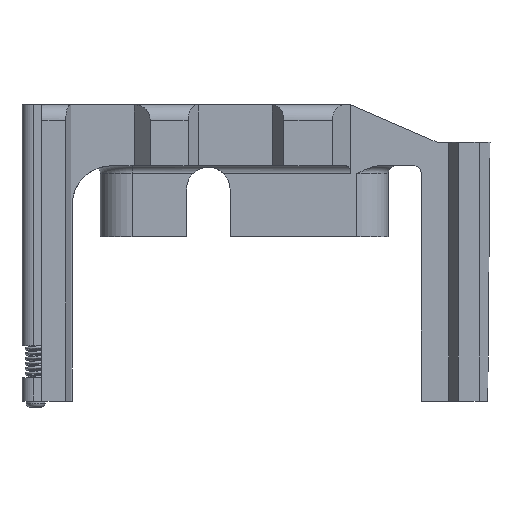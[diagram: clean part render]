
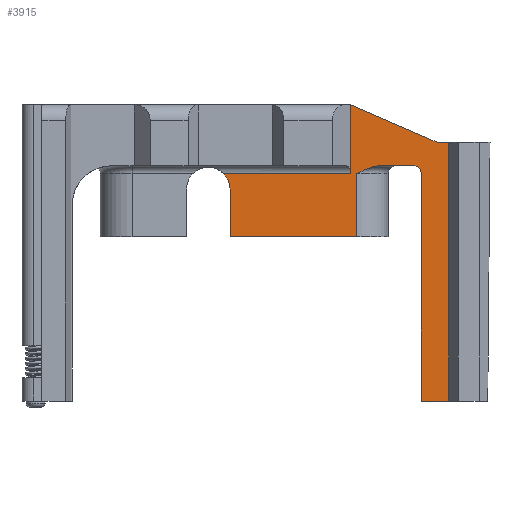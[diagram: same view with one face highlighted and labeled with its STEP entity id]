
A CAD part, left-side view. The second image highlights one B-rep face of the part: STEP entity #3915.
In plain terms, the highlighted planar face has unit normal (-1, 0, 0).
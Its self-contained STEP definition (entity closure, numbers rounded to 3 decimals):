
#80=PLANE('',#4219);
#202=B_SPLINE_CURVE_WITH_KNOTS('',3,(#5798,#5799,#5800,#5801),
 .UNSPECIFIED.,.F.,.F.,(4,4),(0.675,0.979),
 .UNSPECIFIED.);
#326=FACE_OUTER_BOUND('',#542,.T.);
#542=EDGE_LOOP('',(#2727,#2728,#2729,#2730,#2731,#2732,#2733,#2734,#2735,
#2736,#2737,#2738,#2739,#2740,#2741));
#768=LINE('',#5748,#1160);
#782=LINE('',#5792,#1174);
#783=LINE('',#5794,#1175);
#784=LINE('',#5796,#1176);
#785=LINE('',#5803,#1177);
#786=LINE('',#5807,#1178);
#787=LINE('',#5809,#1179);
#788=LINE('',#5811,#1180);
#789=LINE('',#5813,#1181);
#790=LINE('',#5815,#1182);
#791=LINE('',#5818,#1183);
#1160=VECTOR('',#4617,10.);
#1174=VECTOR('',#4649,10.);
#1175=VECTOR('',#4650,10.);
#1176=VECTOR('',#4651,10.);
#1177=VECTOR('',#4652,9.95);
#1178=VECTOR('',#4655,10.);
#1179=VECTOR('',#4656,9.95);
#1180=VECTOR('',#4657,9.95);
#1181=VECTOR('',#4658,9.95);
#1182=VECTOR('',#4659,9.95);
#1183=VECTOR('',#4662,9.95);
#1559=CIRCLE('',#4220,2.755);
#1560=CIRCLE('',#4221,1.);
#1561=CIRCLE('',#4222,0.995);
#1662=VERTEX_POINT('',#5727);
#1664=VERTEX_POINT('',#5747);
#1680=VERTEX_POINT('',#5789);
#1681=VERTEX_POINT('',#5791);
#1682=VERTEX_POINT('',#5793);
#1683=VERTEX_POINT('',#5795);
#1684=VERTEX_POINT('',#5797);
#1685=VERTEX_POINT('',#5802);
#1686=VERTEX_POINT('',#5804);
#1687=VERTEX_POINT('',#5806);
#1688=VERTEX_POINT('',#5808);
#1689=VERTEX_POINT('',#5810);
#1690=VERTEX_POINT('',#5812);
#1691=VERTEX_POINT('',#5814);
#1692=VERTEX_POINT('',#5816);
#2074=EDGE_CURVE('',#1662,#1664,#768,.T.);
#2094=EDGE_CURVE('',#1662,#1680,#1559,.T.);
#2095=EDGE_CURVE('',#1680,#1681,#782,.T.);
#2096=EDGE_CURVE('',#1682,#1681,#783,.T.);
#2097=EDGE_CURVE('',#1683,#1682,#784,.T.);
#2098=EDGE_CURVE('',#1684,#1683,#202,.T.);
#2099=EDGE_CURVE('',#1685,#1684,#785,.T.);
#2100=EDGE_CURVE('',#1686,#1685,#1560,.T.);
#2101=EDGE_CURVE('',#1686,#1687,#786,.T.);
#2102=EDGE_CURVE('',#1688,#1687,#787,.T.);
#2103=EDGE_CURVE('',#1689,#1688,#788,.T.);
#2104=EDGE_CURVE('',#1690,#1689,#789,.T.);
#2105=EDGE_CURVE('',#1691,#1690,#790,.T.);
#2106=EDGE_CURVE('',#1692,#1691,#1561,.T.);
#2107=EDGE_CURVE('',#1664,#1692,#791,.T.);
#2727=ORIENTED_EDGE('',*,*,#2074,.F.);
#2728=ORIENTED_EDGE('',*,*,#2094,.T.);
#2729=ORIENTED_EDGE('',*,*,#2095,.T.);
#2730=ORIENTED_EDGE('',*,*,#2096,.F.);
#2731=ORIENTED_EDGE('',*,*,#2097,.F.);
#2732=ORIENTED_EDGE('',*,*,#2098,.F.);
#2733=ORIENTED_EDGE('',*,*,#2099,.F.);
#2734=ORIENTED_EDGE('',*,*,#2100,.F.);
#2735=ORIENTED_EDGE('',*,*,#2101,.T.);
#2736=ORIENTED_EDGE('',*,*,#2102,.F.);
#2737=ORIENTED_EDGE('',*,*,#2103,.F.);
#2738=ORIENTED_EDGE('',*,*,#2104,.F.);
#2739=ORIENTED_EDGE('',*,*,#2105,.F.);
#2740=ORIENTED_EDGE('',*,*,#2106,.F.);
#2741=ORIENTED_EDGE('',*,*,#2107,.F.);
#3915=ADVANCED_FACE('',(#326),#80,.F.);
#4219=AXIS2_PLACEMENT_3D('',#5788,#4645,#4646);
#4220=AXIS2_PLACEMENT_3D('',#5790,#4647,#4648);
#4221=AXIS2_PLACEMENT_3D('',#5805,#4653,#4654);
#4222=AXIS2_PLACEMENT_3D('',#5817,#4660,#4661);
#4617=DIRECTION('',(0.,-1.,0.));
#4645=DIRECTION('center_axis',(1.,0.,0.));
#4646=DIRECTION('ref_axis',(0.,1.,0.));
#4647=DIRECTION('center_axis',(1.,0.,0.));
#4648=DIRECTION('ref_axis',(0.,0.,1.));
#4649=DIRECTION('',(0.,0.,-1.));
#4650=DIRECTION('',(0.,1.,0.));
#4651=DIRECTION('',(0.,0.,-1.));
#4652=DIRECTION('',(0.,1.,0.));
#4653=DIRECTION('center_axis',(-1.,0.,0.));
#4654=DIRECTION('ref_axis',(0.,-0.707,0.707));
#4655=DIRECTION('',(0.,0.,-1.));
#4656=DIRECTION('',(0.,1.,0.));
#4657=DIRECTION('',(0.,0.,-1.));
#4658=DIRECTION('',(0.,-1.,0.));
#4659=DIRECTION('',(0.,-0.918,-0.396));
#4660=DIRECTION('center_axis',(1.,0.,0.));
#4661=DIRECTION('ref_axis',(0.,-0.202,0.979));
#4662=DIRECTION('',(0.,0.,1.));
#5727=CARTESIAN_POINT('',(-46.484,7.635,28.955));
#5747=CARTESIAN_POINT('',(-46.484,-8.48,28.955));
#5748=CARTESIAN_POINT('',(-46.484,-8.729,28.955));
#5788=CARTESIAN_POINT('Origin',(-46.484,-20.918,32.94));
#5789=CARTESIAN_POINT('',(-46.484,6.82,26.999));
#5790=CARTESIAN_POINT('Origin',(-46.484,9.575,26.999));
#5791=CARTESIAN_POINT('',(-46.484,6.82,20.955));
#5792=CARTESIAN_POINT('',(-46.484,6.82,29.97));
#5793=CARTESIAN_POINT('',(-46.484,-9.237,20.955));
#5794=CARTESIAN_POINT('',(-46.484,5.006,20.955));
#5795=CARTESIAN_POINT('',(-46.484,-9.237,28.955));
#5796=CARTESIAN_POINT('',(-46.484,-9.237,25.455));
#5797=CARTESIAN_POINT('',(-46.484,-12.237,29.955));
#5798=CARTESIAN_POINT('Ctrl Pts',(-46.484,-12.237,29.955));
#5799=CARTESIAN_POINT('Ctrl Pts',(-46.484,-11.225,29.955));
#5800=CARTESIAN_POINT('Ctrl Pts',(-46.484,-10.142,29.407));
#5801=CARTESIAN_POINT('Ctrl Pts',(-46.484,-9.237,28.955));
#5802=CARTESIAN_POINT('',(-46.484,-16.44,29.955));
#5803=CARTESIAN_POINT('',(-46.484,-2.51,29.955));
#5804=CARTESIAN_POINT('',(-46.484,-17.44,28.955));
#5805=CARTESIAN_POINT('Origin',(-46.484,-16.44,28.955));
#5806=CARTESIAN_POINT('',(-46.484,-17.44,0.105));
#5807=CARTESIAN_POINT('',(-46.484,-17.44,23.985));
#5808=CARTESIAN_POINT('',(-46.484,-20.918,0.105));
#5809=CARTESIAN_POINT('',(-46.484,-14.948,0.105));
#5810=CARTESIAN_POINT('',(-46.484,-20.918,32.94));
#5811=CARTESIAN_POINT('',(-46.484,-20.918,32.94));
#5812=CARTESIAN_POINT('',(-46.484,-19.425,32.94));
#5813=CARTESIAN_POINT('',(-46.484,-2.51,32.94));
#5814=CARTESIAN_POINT('',(-46.484,-8.669,37.585));
#5815=CARTESIAN_POINT('',(-46.484,-17.318,33.85));
#5816=CARTESIAN_POINT('',(-46.484,-8.48,37.645));
#5817=CARTESIAN_POINT('Origin',(-46.484,-8.274,36.671));
#5818=CARTESIAN_POINT('',(-46.484,-8.48,32.94));
